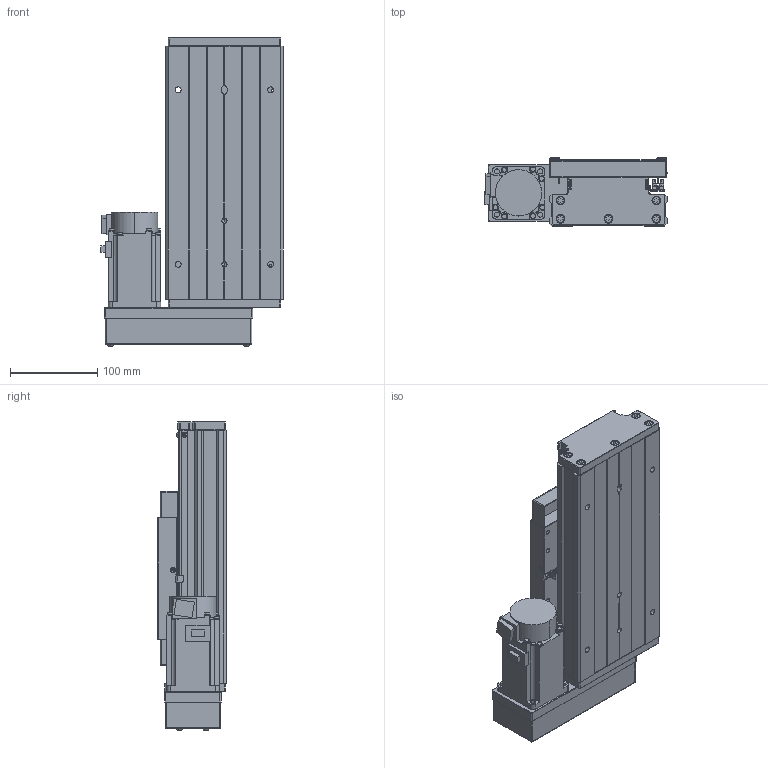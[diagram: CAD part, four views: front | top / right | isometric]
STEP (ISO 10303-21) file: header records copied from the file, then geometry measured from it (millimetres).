
FILE_DESCRIPTION (( 'STEP AP203' ), '1' );
FILE_NAME ('GTH14-50-BL-M40-C4.step', '2023-06-30T08:40:05', ( '微软用户' ), ( '微软中国' ), 'SwSTEP 2.0', 'SolidWorks 2020', '' );
FILE_SCHEMA (( 'CONFIG_CONTROL_DESIGN' ));
Length unit declared in the file: millimetre
Products named in the file (19): GBT 70.2-M4¡Á35_M4¡Á35; GTH14-004; GBT 70.1-M3℅5; GTH14-015-2_CTHA86-015-2; GTH14-005; GBT77-2000 M3×3; GTH14-033; GB1155-6X6; GTH14-031; GTH14-50-BL-M40-C4; GBT70.1 M5℅16; GBT 70.2-M3¡Á5_M3¡Á6; CTHA60-017; す晦芛蹟隊 M3℅5; GTH14-001_50; EE_SX911P_R; HG-KN43J-S100; GTH14-002_GTH14-002; CTHA60-016
Assembly tree (58 placements, depth 2):
  GTH14-50-BL-M40-C4
    GTH14-001_50
    GTH14-002_GTH14-002
    GTH14-004
    GTH14-005
    GB1155-6X6  x2
    GBT70.1 M5℅16  x10
    CTHA60-017  x3
    EE_SX911P_R  x3
    CTHA60-016  x2
    GBT 70.1-M3℅5  x6
    GBT77-2000 M3×3  x6
    GTH14-031
    GBT 70.2-M3¡Á5_M3¡Á6  x8
    す晦芛蹟隊 M3℅5  x6
    HG-KN43J-S100
    GBT 70.2-M4¡Á35_M4¡Á35  x4
    GTH14-015-2_CTHA86-015-2
    GTH14-033
Bounding box: 209.3 x 78 x 354.2 mm (x, y, z)
Volume: 2406904.7 mm3; surface area: 493944.2 mm2
Topology: 61 solids, 61 shells, 2423 faces, 5761 edges, 3546 vertices
Faces by surface type: plane 1301, cylinder 632, cone 314, torus 124, sphere 32, bspline 20
Entity records: 43234 total; most frequent: CARTESIAN_POINT 9707, DIRECTION 6309, ORIENTED_EDGE 6212, EDGE_CURVE 3106, AXIS2_PLACEMENT_3D 2140, LINE 2029, VECTOR 2029, VERTEX_POINT 1964
